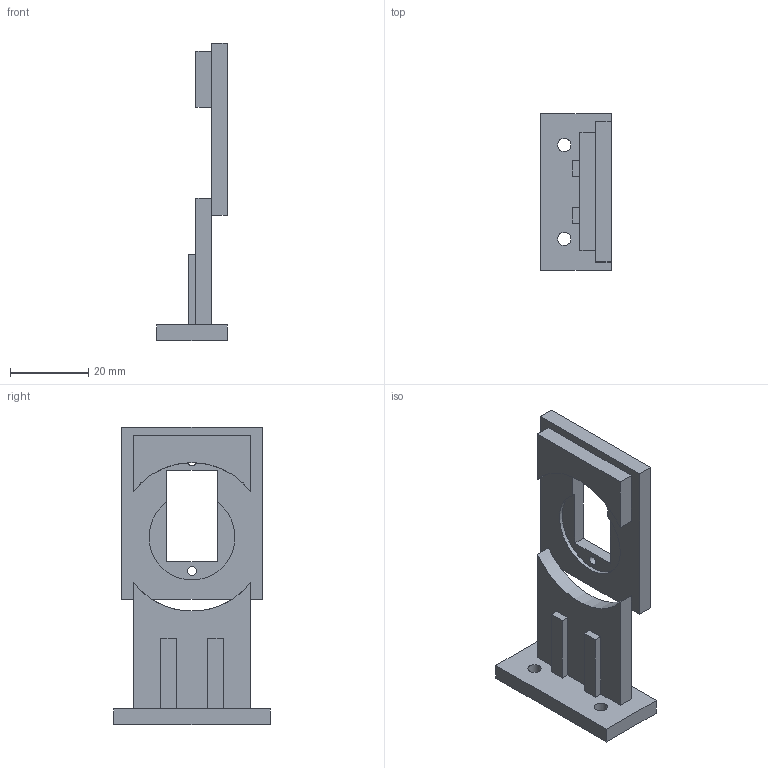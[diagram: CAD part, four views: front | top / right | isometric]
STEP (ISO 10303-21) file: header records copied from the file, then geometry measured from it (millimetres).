
FILE_DESCRIPTION(('FreeCAD Model'),'2;1');
FILE_NAME('Open CASCADE Shape Model','2026-11-07T16:11:58',('FreeCAD'),( 'FreeCAD'),'Open CASCADE STEP processor 7.8','FreeCAD','Unknown');
FILE_SCHEMA(('AUTOMOTIVE_DESIGN { 1 0 10303 214 1 1 1 1 }'));
Length unit declared in the file: millimetre
Products named in the file (1): Open CASCADE STEP translator 7.8 6
Bounding box: 18 x 40 x 76 mm (x, y, z)
Volume: 12411 mm3; surface area: 7893.9 mm2
Topology: 1 solids, 1 shells, 41 faces, 116 edges, 76 vertices
Faces by surface type: plane 34, cylinder 7
Full cylindrical faces by diameter (mm): 2.3 x2, 3.4 x2
Entity records: 1354 total; most frequent: CARTESIAN_POINT 234, ORIENTED_EDGE 232, DIRECTION 222, EDGE_CURVE 116, LINE 94, VECTOR 94, VERTEX_POINT 76, AXIS2_PLACEMENT_3D 64
